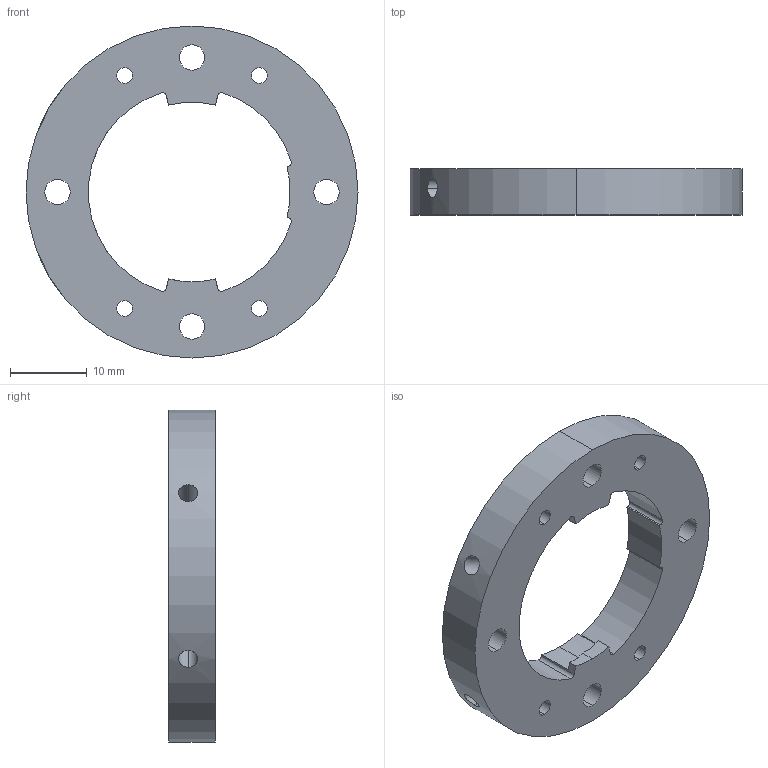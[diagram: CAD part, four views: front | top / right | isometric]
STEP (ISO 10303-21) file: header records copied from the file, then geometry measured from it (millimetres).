
FILE_DESCRIPTION (( 'STEP AP203' ), '1' );
FILE_NAME ('OPT_GRISM_0006 [2026-04-04].STEP', '2026-04-04T10:54:07', ( '' ), ( '' ), 'SwSTEP 2.0', 'SolidWorks 2014', '' );
FILE_SCHEMA (( 'CONFIG_CONTROL_DESIGN' ));
Length unit declared in the file: millimetre
Products named in the file (1): OPT_GRISM_0006 [2026-04-04]
Bounding box: 43.2 x 6 x 43.2 mm (x, y, z)
Volume: 5106.4 mm3; surface area: 3599.5 mm2
Topology: 1 solids, 1 shells, 58 faces, 168 edges, 112 vertices
Faces by surface type: cylinder 46, plane 12
Entity records: 2225 total; most frequent: CARTESIAN_POINT 573, ORIENTED_EDGE 336, DIRECTION 322, EDGE_CURVE 168, AXIS2_PLACEMENT_3D 125, VERTEX_POINT 112, EDGE_LOOP 80, LINE 72
